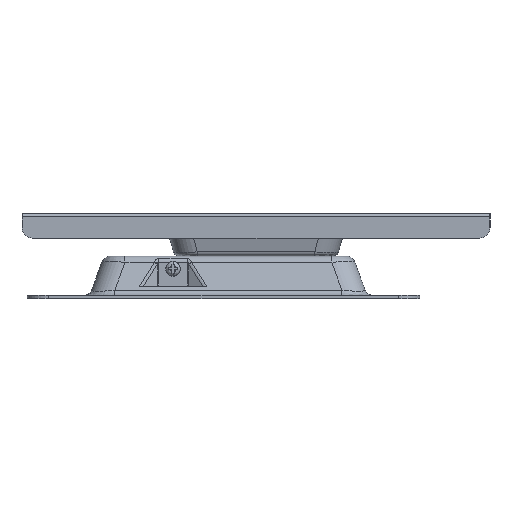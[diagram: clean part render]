
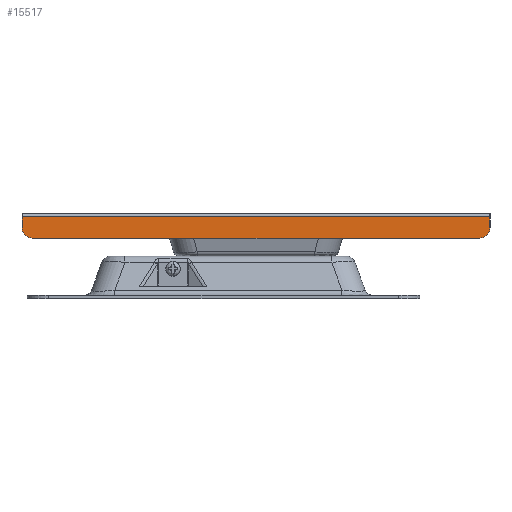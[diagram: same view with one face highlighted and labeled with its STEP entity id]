
A CAD part, left-side view. The second image highlights one B-rep face of the part: STEP entity #15517.
In plain terms, the highlighted planar face has unit normal (-1, 0, 0) as drawn and (1, 0, 0) by its records, which use the part's own axes.
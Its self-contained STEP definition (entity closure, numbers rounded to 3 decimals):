
#10675=CARTESIAN_POINT('',(111.6,105.,5.));
#10676=DIRECTION('',(1.,0.,0.));
#10677=DIRECTION('',(0.,1.,0.));
#10678=AXIS2_PLACEMENT_3D('',#10675,#10676,#10677);
#10680=DIRECTION('',(0.,0.,-1.));
#10681=VECTOR('',#10680,5.);
#10682=CARTESIAN_POINT('',(111.6,110.,5.));
#10683=LINE('',#10682,#10681);
#10684=DIRECTION('',(0.,-1.,0.));
#10685=VECTOR('',#10684,220.);
#10686=CARTESIAN_POINT('',(111.6,110.,0.));
#10687=LINE('',#10686,#10685);
#10688=DIRECTION('',(0.,0.,1.));
#10689=VECTOR('',#10688,5.);
#10690=CARTESIAN_POINT('',(111.6,-110.,0.));
#10691=LINE('',#10690,#10689);
#10692=CARTESIAN_POINT('',(111.6,-105.,5.));
#10693=DIRECTION('',(1.,0.,0.));
#10694=DIRECTION('',(0.,0.,1.));
#10695=AXIS2_PLACEMENT_3D('',#10692,#10693,#10694);
#10697=DIRECTION('',(0.,1.,0.));
#10698=VECTOR('',#10697,210.);
#10699=CARTESIAN_POINT('',(111.6,-105.,10.));
#10700=LINE('',#10699,#10698);
#11325=CARTESIAN_POINT('',(111.6,110.,0.));
#11326=CARTESIAN_POINT('',(111.6,-110.,0.));
#11327=VERTEX_POINT('',#11325);
#11328=VERTEX_POINT('',#11326);
#11353=CARTESIAN_POINT('',(111.6,110.,5.));
#11354=VERTEX_POINT('',#11353);
#11355=CARTESIAN_POINT('',(111.6,105.,10.));
#11356=VERTEX_POINT('',#11355);
#11377=CARTESIAN_POINT('',(111.6,-105.,10.));
#11378=VERTEX_POINT('',#11377);
#11379=CARTESIAN_POINT('',(111.6,-110.,5.));
#11380=VERTEX_POINT('',#11379);
#15502=CARTESIAN_POINT('',(111.6,-110.,0.));
#15503=DIRECTION('',(-1.,0.,0.));
#15504=DIRECTION('',(0.,-1.,0.));
#15505=AXIS2_PLACEMENT_3D('',#15502,#15503,#15504);
#15506=PLANE('',#15505);
#15507=ORIENTED_EDGE('',*,*,#15495,.F.);
#15508=ORIENTED_EDGE('',*,*,#15483,.T.);
#15510=ORIENTED_EDGE('',*,*,#15509,.T.);
#15511=ORIENTED_EDGE('',*,*,#15433,.T.);
#15512=ORIENTED_EDGE('',*,*,#15450,.F.);
#15514=ORIENTED_EDGE('',*,*,#15513,.T.);
#15515=EDGE_LOOP('',(#15507,#15508,#15510,#15511,#15512,#15514));
#15516=FACE_OUTER_BOUND('',#15515,.F.);
#15517=ADVANCED_FACE('',(#15516),#15506,.F.);
#10679=CIRCLE('',#10678,5.);
#10696=CIRCLE('',#10695,5.);
#15433=EDGE_CURVE('',#11328,#11380,#10691,.T.);
#15450=EDGE_CURVE('',#11378,#11380,#10696,.T.);
#15483=EDGE_CURVE('',#11354,#11327,#10683,.T.);
#15495=EDGE_CURVE('',#11354,#11356,#10679,.T.);
#15509=EDGE_CURVE('',#11327,#11328,#10687,.T.);
#15513=EDGE_CURVE('',#11378,#11356,#10700,.T.);
